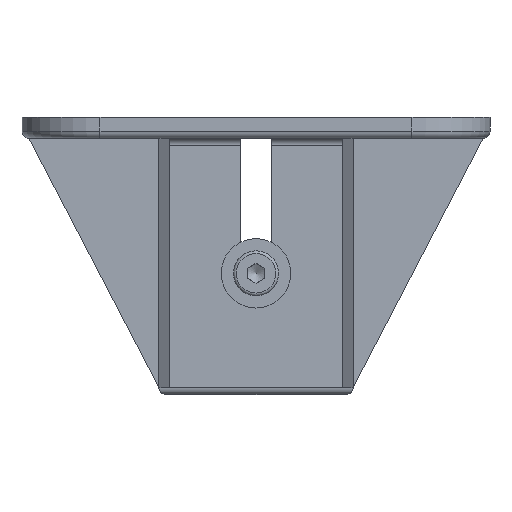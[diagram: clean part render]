
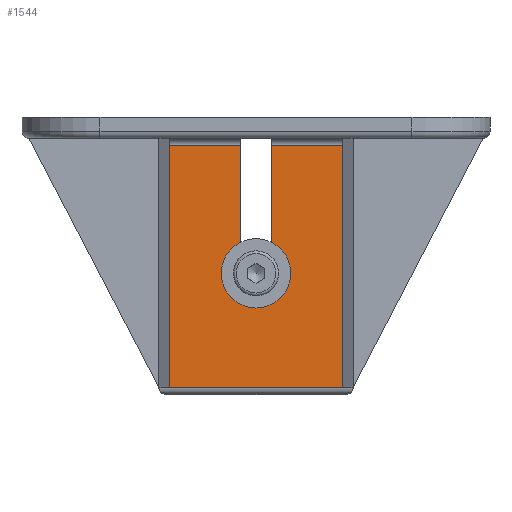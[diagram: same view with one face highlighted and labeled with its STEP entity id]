
A CAD part, left-side view. The second image highlights one B-rep face of the part: STEP entity #1544.
In plain terms, the highlighted planar face has unit normal (-1, 0, 0).
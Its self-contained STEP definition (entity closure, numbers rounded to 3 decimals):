
#1342=CARTESIAN_POINT('',(-107.62,-20.446,78.));
#1343=VERTEX_POINT('',#1342);
#1374=CARTESIAN_POINT('',(-107.62,-20.446,8.));
#1375=VERTEX_POINT('',#1374);
#1390=CARTESIAN_POINT('',(-107.62,-20.446,8.));
#1391=DIRECTION('',(0.0,0.0,1.0));
#1392=VECTOR('',#1391,70.);
#1393=LINE('',#1390,#1392);
#1394=EDGE_CURVE('',#1375,#1343,#1393,.T.);
#1469=CARTESIAN_POINT('',(-107.62,0.054,8.));
#1470=VERTEX_POINT('',#1469);
#1471=CARTESIAN_POINT('',(-107.62,-20.446,8.));
#1472=DIRECTION('',(0.0,1.0,0.0));
#1473=VECTOR('',#1472,20.5);
#1474=LINE('',#1471,#1473);
#1475=EDGE_CURVE('',#1375,#1470,#1474,.T.);
#1488=CARTESIAN_POINT('',(-107.62,9.054,6.));
#1489=DIRECTION('',(-1.0,0.0,0.0));
#1490=DIRECTION('',(0.0,0.0,1.0));
#1491=AXIS2_PLACEMENT_3D('',#1488,#1489,#1490);
#1492=PLANE('',#1491);
#1493=ORIENTED_EDGE('',*,*,#1394,.T.);
#1494=CARTESIAN_POINT('',(-107.62,29.554,78.));
#1495=VERTEX_POINT('',#1494);
#1496=CARTESIAN_POINT('',(-107.62,29.554,78.));
#1497=DIRECTION('',(0.0,-1.0,0.0));
#1498=VECTOR('',#1497,50.);
#1499=LINE('',#1496,#1498);
#1500=EDGE_CURVE('',#1495,#1343,#1499,.T.);
#1501=ORIENTED_EDGE('',*,*,#1500,.F.);
#1502=CARTESIAN_POINT('',(-107.62,29.554,8.));
#1503=VERTEX_POINT('',#1502);
#1504=CARTESIAN_POINT('',(-107.62,29.554,78.));
#1505=DIRECTION('',(0.0,0.0,-1.0));
#1506=VECTOR('',#1505,70.);
#1507=LINE('',#1504,#1506);
#1508=EDGE_CURVE('',#1495,#1503,#1507,.T.);
#1509=ORIENTED_EDGE('',*,*,#1508,.T.);
#1510=CARTESIAN_POINT('',(-107.62,9.054,8.));
#1511=VERTEX_POINT('',#1510);
#1512=CARTESIAN_POINT('',(-107.62,9.054,8.));
#1513=DIRECTION('',(0.0,1.0,0.0));
#1514=VECTOR('',#1513,20.5);
#1515=LINE('',#1512,#1514);
#1516=EDGE_CURVE('',#1511,#1503,#1515,.T.);
#1517=ORIENTED_EDGE('',*,*,#1516,.F.);
#1518=CARTESIAN_POINT('',(-107.62,9.054,45.));
#1519=VERTEX_POINT('',#1518);
#1520=CARTESIAN_POINT('',(-107.62,9.054,8.));
#1521=DIRECTION('',(0.0,0.0,1.0));
#1522=VECTOR('',#1521,37.);
#1523=LINE('',#1520,#1522);
#1524=EDGE_CURVE('',#1511,#1519,#1523,.T.);
#1525=ORIENTED_EDGE('',*,*,#1524,.T.);
#1526=CARTESIAN_POINT('',(-107.62,0.054,45.));
#1527=VERTEX_POINT('',#1526);
#1528=CARTESIAN_POINT('',(-107.62,4.554,45.));
#1529=DIRECTION('',(1.0,0.0,0.0));
#1530=DIRECTION('',(0.0,1.0,0.0));
#1531=AXIS2_PLACEMENT_3D('',#1528,#1529,#1530);
#1532=CIRCLE('',#1531,4.5);
#1533=EDGE_CURVE('',#1519,#1527,#1532,.T.);
#1534=ORIENTED_EDGE('',*,*,#1533,.T.);
#1535=CARTESIAN_POINT('',(-107.62,0.054,8.));
#1536=DIRECTION('',(0.0,0.0,1.0));
#1537=VECTOR('',#1536,37.);
#1538=LINE('',#1535,#1537);
#1539=EDGE_CURVE('',#1470,#1527,#1538,.T.);
#1540=ORIENTED_EDGE('',*,*,#1539,.F.);
#1541=ORIENTED_EDGE('',*,*,#1475,.F.);
#1542=EDGE_LOOP('',(#1493,#1501,#1509,#1517,#1525,#1534,#1540,#1541));
#1543=FACE_OUTER_BOUND('',#1542,.T.);
#1544=ADVANCED_FACE('',(#1543),#1492,.T.);
